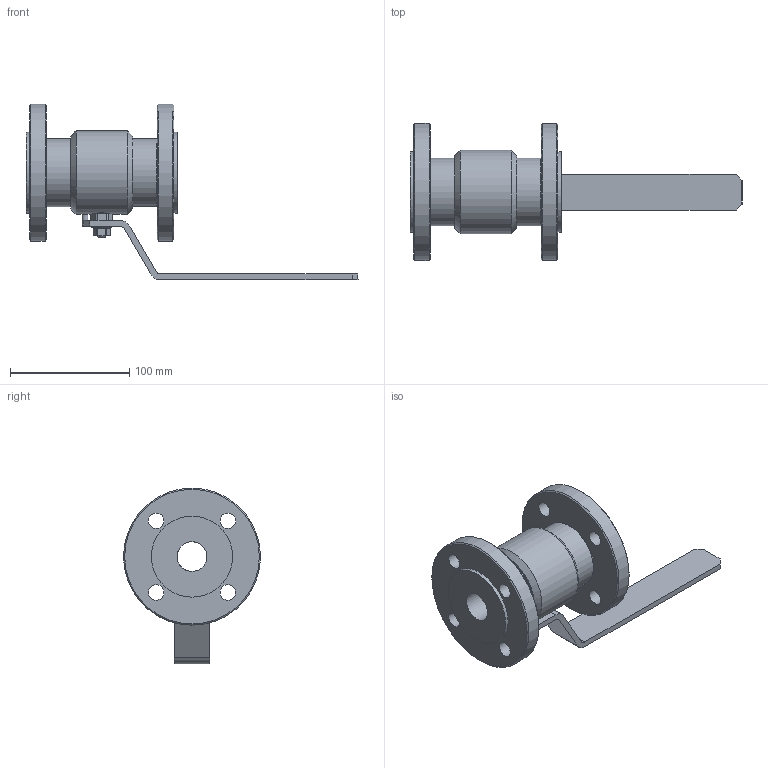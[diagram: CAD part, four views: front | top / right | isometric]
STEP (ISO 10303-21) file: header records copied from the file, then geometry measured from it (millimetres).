
FILE_DESCRIPTION(('STEP AP203'), '1');
FILE_NAME('ZARDP 025.016.21.P.stp', '2013-12-05T13:08:04', ('User'), ('Computer'), 'ASCON STEP Converter 1.3', 'Kompas 3D', '');
FILE_SCHEMA(('CONFIG_CONTROL_DESIGN','SUPPORT_RESOURCE_SCHEMA'));
Length unit declared in the file: millimetre
Products named in the file (1): 216
Bounding box: 278.5 x 115 x 147.5 mm (x, y, z)
Volume: 543337.3 mm3; surface area: 103947.4 mm2
Topology: 1 solids, 3 shells, 159 faces, 374 edges, 232 vertices
Faces by surface type: plane 80, cylinder 49, cone 27, torus 3
Full cylindrical faces by diameter (mm): 5 x2, 8 x2, 10.7 x1, 10.917 x1, 12 x1, 12.1 x1, 13 x8, 19.8 x1, 20 x3, 25 x2, 48.4 x1, 57 x2, 68 x2, 70 x1, 115 x2
Entity records: 5609 total; most frequent: CARTESIAN_POINT 1738, DIRECTION 829, ORIENTED_EDGE 748, EDGE_CURVE 374, AXIS2_PLACEMENT_3D 320, VERTEX_POINT 232, EDGE_LOOP 198, LINE 189
